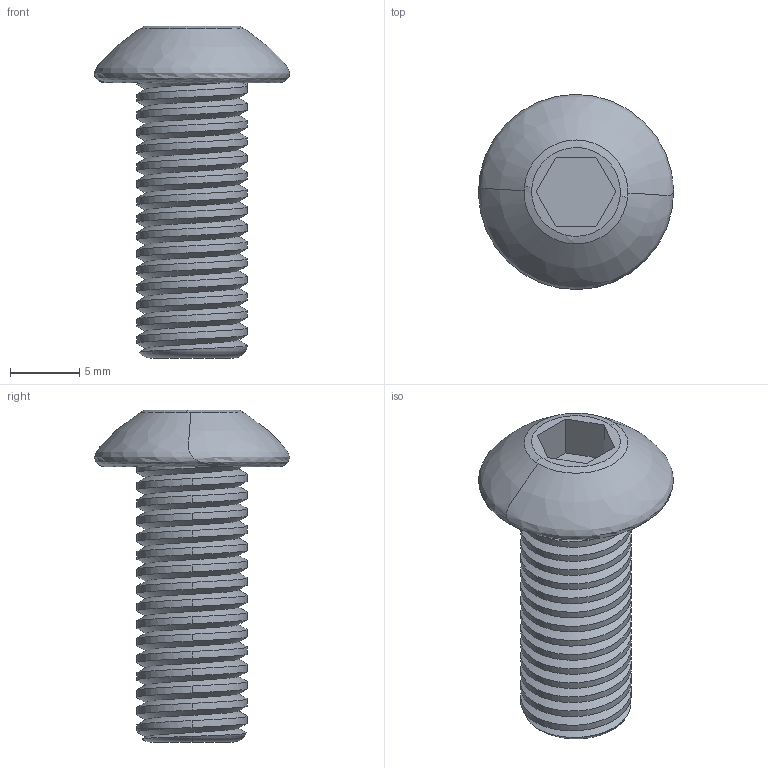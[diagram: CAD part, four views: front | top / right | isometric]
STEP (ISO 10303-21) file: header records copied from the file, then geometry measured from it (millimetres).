
FILE_DESCRIPTION (( 'STEP AP203' ), '1' );
FILE_NAME ('148-CE-CB-M8.STEP', '2015-07-09T09:05:15', ( '' ), ( '' ), 'SwSTEP 2.0', 'SolidWorks 2013', '' );
FILE_SCHEMA (( 'CONFIG_CONTROL_DESIGN' ));
Length unit declared in the file: millimetre
Products named in the file (1): 148-CE-CB-M8
Bounding box: 14.12 x 14.11 x 24 mm (x, y, z)
Volume: 1281.4 mm3; surface area: 1204.1 mm2
Topology: 1 solids, 1 shells, 53 faces, 148 edges, 97 vertices
Faces by surface type: cylinder 32, plane 11, bspline 7, torus 3
Entity records: 4512 total; most frequent: CARTESIAN_POINT 3315, ORIENTED_EDGE 292, DIRECTION 174, EDGE_CURVE 146, VERTEX_POINT 97, AXIS2_PLACEMENT_3D 60, EDGE_LOOP 55, LINE 54
